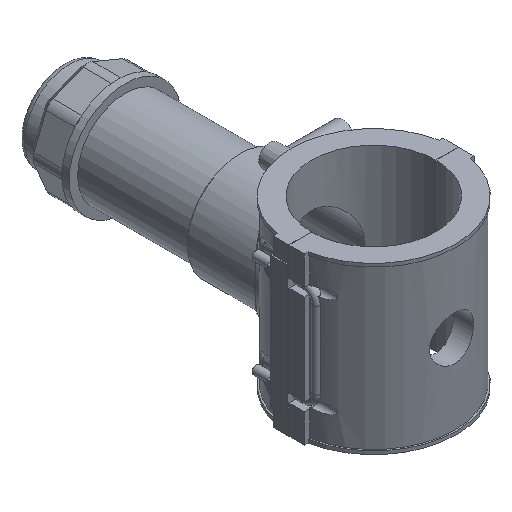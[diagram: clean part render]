
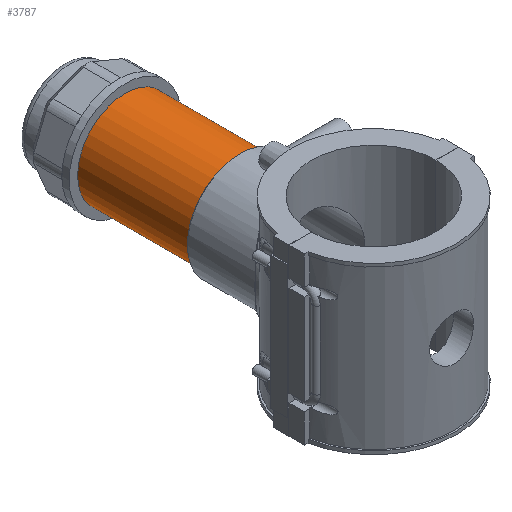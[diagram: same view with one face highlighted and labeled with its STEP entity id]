
A CAD part, isometric view. The second image highlights one B-rep face of the part: STEP entity #3787.
In plain terms, the highlighted cylindrical face has radius 33.928 mm (diameter 67.856 mm), a full revolution.
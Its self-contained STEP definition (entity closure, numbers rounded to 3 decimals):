
#53=FACE_BOUND('',#560,.T.);
#82=B_SPLINE_CURVE_WITH_KNOTS('',3,(#5587,#5588,#5589,#5590,#5591,#5592,
#5593,#5594,#5595,#5596),.UNSPECIFIED.,.F.,.F.,(4,2,2,2,4),(0.,0.299,
0.598,0.896,1.195),.UNSPECIFIED.);
#83=B_SPLINE_CURVE_WITH_KNOTS('',3,(#5597,#5598,#5599,#5600,#5601,#5602,
#5603,#5604,#5605,#5606,#5607,#5608,#5609,#5610,#5611,#5612,#5613,#5614,
#5615,#5616,#5617,#5618,#5619,#5620,#5621,#5622),.UNSPECIFIED.,.F.,.F.,
(4,2,2,2,2,2,2,2,2,2,2,2,4),(1.195,1.494,1.793,
2.091,2.39,2.689,2.988,3.286,
3.585,3.884,4.183,4.481,4.78),
 .UNSPECIFIED.);
#344=FACE_OUTER_BOUND('',#559,.T.);
#559=EDGE_LOOP('',(#2788,#2789,#2790,#2791,#2792,#2793));
#560=EDGE_LOOP('',(#2794,#2795));
#779=CIRCLE('',#4052,33.928);
#780=CIRCLE('',#4053,33.928);
#793=CIRCLE('',#4080,33.928);
#794=CIRCLE('',#4081,33.928);
#956=LINE('',#5872,#1297);
#1297=VECTOR('',#4630,33.928);
#1582=VERTEX_POINT('',#5584);
#1583=VERTEX_POINT('',#5586);
#1645=VERTEX_POINT('',#5813);
#1646=VERTEX_POINT('',#5814);
#1660=VERTEX_POINT('',#5868);
#1661=VERTEX_POINT('',#5869);
#1960=EDGE_CURVE('',#1583,#1582,#82,.T.);
#1961=EDGE_CURVE('',#1582,#1583,#83,.T.);
#2056=EDGE_CURVE('',#1645,#1646,#779,.T.);
#2057=EDGE_CURVE('',#1646,#1645,#780,.T.);
#2082=EDGE_CURVE('',#1660,#1661,#793,.T.);
#2083=EDGE_CURVE('',#1661,#1660,#794,.T.);
#2084=EDGE_CURVE('',#1661,#1646,#956,.T.);
#2788=ORIENTED_EDGE('',*,*,#2082,.F.);
#2789=ORIENTED_EDGE('',*,*,#2083,.F.);
#2790=ORIENTED_EDGE('',*,*,#2084,.T.);
#2791=ORIENTED_EDGE('',*,*,#2057,.T.);
#2792=ORIENTED_EDGE('',*,*,#2056,.T.);
#2793=ORIENTED_EDGE('',*,*,#2084,.F.);
#2794=ORIENTED_EDGE('',*,*,#1960,.T.);
#2795=ORIENTED_EDGE('',*,*,#1961,.T.);
#3691=CYLINDRICAL_SURFACE('',#4079,33.928);
#3787=ADVANCED_FACE('',(#344,#53),#3691,.T.);
#4052=AXIS2_PLACEMENT_3D('',#5815,#4558,#4559);
#4053=AXIS2_PLACEMENT_3D('',#5816,#4560,#4561);
#4079=AXIS2_PLACEMENT_3D('',#5867,#4624,#4625);
#4080=AXIS2_PLACEMENT_3D('',#5870,#4626,#4627);
#4081=AXIS2_PLACEMENT_3D('',#5871,#4628,#4629);
#4558=DIRECTION('center_axis',(0.,1.,0.));
#4559=DIRECTION('ref_axis',(1.,0.,0.));
#4560=DIRECTION('center_axis',(0.,1.,0.));
#4561=DIRECTION('ref_axis',(1.,0.,0.));
#4624=DIRECTION('center_axis',(0.,1.,0.));
#4625=DIRECTION('ref_axis',(0.,0.,1.));
#4626=DIRECTION('center_axis',(0.,1.,0.));
#4627=DIRECTION('ref_axis',(1.,0.,0.));
#4628=DIRECTION('center_axis',(0.,1.,0.));
#4629=DIRECTION('ref_axis',(1.,0.,0.));
#4630=DIRECTION('',(0.,-1.,0.));
#5584=CARTESIAN_POINT('',(33.928,101.474,0.));
#5586=CARTESIAN_POINT('',(32.995,109.374,-7.9));
#5587=CARTESIAN_POINT('Ctrl Pts',(32.995,109.374,-7.9));
#5588=CARTESIAN_POINT('Ctrl Pts',(32.995,108.378,-7.9));
#5589=CARTESIAN_POINT('Ctrl Pts',(33.045,107.318,-7.7));
#5590=CARTESIAN_POINT('Ctrl Pts',(33.223,105.373,-6.893));
#5591=CARTESIAN_POINT('Ctrl Pts',(33.348,104.487,-6.286));
#5592=CARTESIAN_POINT('Ctrl Pts',(33.581,103.089,-4.887));
#5593=CARTESIAN_POINT('Ctrl Pts',(33.705,102.481,-4.001));
#5594=CARTESIAN_POINT('Ctrl Pts',(33.879,101.674,-2.056));
#5595=CARTESIAN_POINT('Ctrl Pts',(33.928,101.474,-0.996));
#5596=CARTESIAN_POINT('Ctrl Pts',(33.928,101.474,0.));
#5597=CARTESIAN_POINT('Ctrl Pts',(33.928,101.474,0.));
#5598=CARTESIAN_POINT('Ctrl Pts',(33.928,101.474,0.996));
#5599=CARTESIAN_POINT('Ctrl Pts',(33.879,101.674,2.056));
#5600=CARTESIAN_POINT('Ctrl Pts',(33.705,102.481,4.001));
#5601=CARTESIAN_POINT('Ctrl Pts',(33.581,103.089,4.887));
#5602=CARTESIAN_POINT('Ctrl Pts',(33.348,104.487,6.286));
#5603=CARTESIAN_POINT('Ctrl Pts',(33.223,105.373,6.893));
#5604=CARTESIAN_POINT('Ctrl Pts',(33.045,107.318,7.7));
#5605=CARTESIAN_POINT('Ctrl Pts',(32.995,108.378,7.9));
#5606=CARTESIAN_POINT('Ctrl Pts',(32.995,110.37,7.9));
#5607=CARTESIAN_POINT('Ctrl Pts',(33.045,111.43,7.7));
#5608=CARTESIAN_POINT('Ctrl Pts',(33.223,113.375,6.893));
#5609=CARTESIAN_POINT('Ctrl Pts',(33.348,114.261,6.286));
#5610=CARTESIAN_POINT('Ctrl Pts',(33.581,115.659,4.887));
#5611=CARTESIAN_POINT('Ctrl Pts',(33.705,116.267,4.001));
#5612=CARTESIAN_POINT('Ctrl Pts',(33.879,117.074,2.056));
#5613=CARTESIAN_POINT('Ctrl Pts',(33.928,117.274,0.996));
#5614=CARTESIAN_POINT('Ctrl Pts',(33.928,117.274,-0.996));
#5615=CARTESIAN_POINT('Ctrl Pts',(33.879,117.074,-2.056));
#5616=CARTESIAN_POINT('Ctrl Pts',(33.705,116.267,-4.001));
#5617=CARTESIAN_POINT('Ctrl Pts',(33.581,115.659,-4.887));
#5618=CARTESIAN_POINT('Ctrl Pts',(33.348,114.261,-6.286));
#5619=CARTESIAN_POINT('Ctrl Pts',(33.223,113.375,-6.893));
#5620=CARTESIAN_POINT('Ctrl Pts',(33.045,111.43,-7.7));
#5621=CARTESIAN_POINT('Ctrl Pts',(32.995,110.37,-7.9));
#5622=CARTESIAN_POINT('Ctrl Pts',(32.995,109.374,-7.9));
#5813=CARTESIAN_POINT('',(0.,95.762,33.928));
#5814=CARTESIAN_POINT('',(0.,95.762,-33.928));
#5815=CARTESIAN_POINT('Origin',(0.,95.762,0.));
#5816=CARTESIAN_POINT('Origin',(0.,95.762,0.));
#5867=CARTESIAN_POINT('Origin',(0.,136.445,0.));
#5868=CARTESIAN_POINT('',(0.,177.129,33.928));
#5869=CARTESIAN_POINT('',(0.,177.129,-33.928));
#5870=CARTESIAN_POINT('Origin',(0.,177.129,0.));
#5871=CARTESIAN_POINT('Origin',(0.,177.129,0.));
#5872=CARTESIAN_POINT('',(0.,136.445,-33.928));
